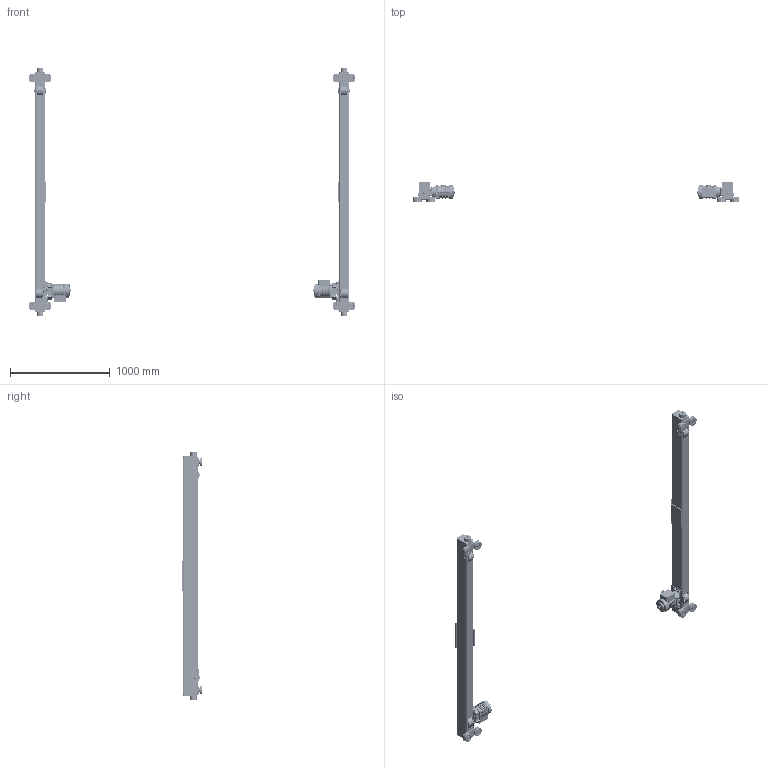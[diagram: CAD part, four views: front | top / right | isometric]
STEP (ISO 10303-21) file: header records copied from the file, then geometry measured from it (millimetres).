
FILE_DESCRIPTION (( 'STEP AP214' ), '1' );
FILE_NAME ('TMS-3-0160.STEP', '2026-08-11T15:27:54', ( '' ), ( '' ), 'SwSTEP 2.0', 'SolidWorks 2026', '' );
FILE_SCHEMA (( 'AUTOMOTIVE_DESIGN' ));
Length unit declared in the file: inch
Products named in the file (62): T7G117020; G1JE025S9310; N6QO3101101; N6QL210207; 62395_0145-0150-0160 - 25# RAIL; G1JE025S9603; N6QO3101108_N6QO3101108; 6240823; 6240822; 9093330_9093330; 9093101_9093101; 6240802; 6240817X_6240817A; 9000705; G1JE025S9701; 62587; G1JE025S9609; G1JM025S_ROTATED 180 DEGREES; T600-400-004_94.125; 6232404; 6232305; 9012514_9012514; N6QO3101102; N6QO310E91012; G1JE025S9303; 9047252_9047252; 9047125_B27.7M - 3AM1-23; 9091272_9091272; 9012711_9012711; G1JE025S9503; 9093327_9093327; G1JE025S9401; G1JE025S9301; 6240813; MS555010_MS555010; N6Q0310E9102_Domestic; 9091273_9091273; 6240806; 6240814; N6QO310E9108_N6QO3101108 DOMESTIC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
Assembly tree (212 placements, depth 4):
  TMS-3-0160
    62395_0145-0150-0160 - 25# RAIL
      62393_6239302
        T600-400-004_94.125
        6240822
        6240823
      6240806  x2
      6240817X_6240817A  x2
        6240805X_6240805A
        6232305
      6240813
      T7G117020
      6240802
      6240803
      6240804
    62396_0145-0150-0160 - 25# RAIL
      62394_6239402
        T600-400-004 sp_94.125
        6240822
        6240823
      6240806  x2
      6240813
      6240817X_6240817A  x2
        6240805X_6240805A
        6232305
      T7G117020
      6240802
      6240803
      6240804
    6240814  x4
    6240825  x2
    6240826  x2
    9012711_9012711  x18
    9093327_9093327  x6
    N6QL210207  x4
    9012514_9012514  x4
    9093101_9093101  x4
    N6QO3101108_N6QO3101108  x8
      N6QO310E9108_N6QO3101108 DOMESTIC
      9047252_9047252
      9000605
    6232404  x8
    9047125_B27.7M - 3AM1-23  x8
    N6QO3101102  x2
      N6Q0310E9102_Domestic
      9000705
    N6QO3101101  x2
      N6QO310E91012
      9000705
    G1JM025S_ROTATED 180 DEGREES
      G1JE025S9303
      G1JE025S9310
      G1JE025S9401
      G1JE025S9503
      G1JE025S9610
      G1JE025S9609
      G1JE025S9707
      G1JE025S9701
      G1JE025S9604
      G1JE025S9603
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Bounding box: 3275.41 x 207.96 x 2487.82 mm (x, y, z)
Volume: 25567365.1 mm3; surface area: 7062489.7 mm2
Topology: 218 solids, 282 shells, 15270 faces, 39454 edges, 25370 vertices
Faces by surface type: plane 8318, cylinder 3506, bspline 1802, torus 804, cone 654, sphere 186
Entity records: 164481 total; most frequent: CARTESIAN_POINT 67806, ORIENTED_EDGE 20268, DIRECTION 18830, EDGE_CURVE 10138, AXIS2_PLACEMENT_3D 7226, VERTEX_POINT 6454, EDGE_LOOP 4466, VECTOR 4378
